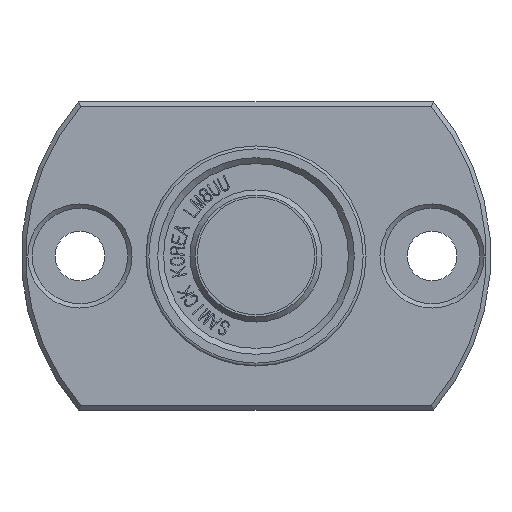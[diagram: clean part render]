
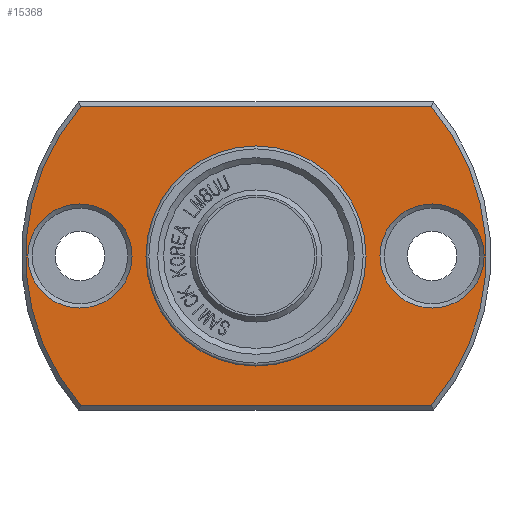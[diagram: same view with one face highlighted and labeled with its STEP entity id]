
A CAD part, front view. The second image highlights one B-rep face of the part: STEP entity #15368.
In plain terms, the highlighted planar face has unit normal (0, -1, 0).
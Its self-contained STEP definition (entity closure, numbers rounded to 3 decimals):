
#2551=FACE_BOUND('',#3665,.T.);
#2552=FACE_BOUND('',#3666,.T.);
#2553=FACE_BOUND('',#3667,.T.);
#2609=PLANE('',#16221);
#2834=FACE_OUTER_BOUND('',#3664,.T.);
#3664=EDGE_LOOP('',(#10700,#10701,#10702,#10703));
#3665=EDGE_LOOP('',(#10704));
#3666=EDGE_LOOP('',(#10705,#10706));
#3667=EDGE_LOOP('',(#10707));
#4552=LINE('',#18275,#5648);
#4553=LINE('',#18279,#5649);
#5648=VECTOR('',#16546,10.);
#5649=VECTOR('',#16549,10.);
#6743=CIRCLE('',#16218,3.55);
#6746=CIRCLE('',#16222,15.7);
#6747=CIRCLE('',#16223,15.7);
#6748=CIRCLE('',#16224,3.55);
#6749=CIRCLE('',#16225,7.5);
#6750=CIRCLE('',#16226,7.5);
#6809=VERTEX_POINT('',#18265);
#6812=VERTEX_POINT('',#18273);
#6813=VERTEX_POINT('',#18274);
#6814=VERTEX_POINT('',#18276);
#6815=VERTEX_POINT('',#18278);
#6816=VERTEX_POINT('',#18281);
#6817=VERTEX_POINT('',#18283);
#6818=VERTEX_POINT('',#18284);
#8365=EDGE_CURVE('',#6809,#6809,#6743,.T.);
#8369=EDGE_CURVE('',#6812,#6813,#4552,.T.);
#8370=EDGE_CURVE('',#6812,#6814,#6746,.T.);
#8371=EDGE_CURVE('',#6815,#6814,#4553,.T.);
#8372=EDGE_CURVE('',#6815,#6813,#6747,.T.);
#8373=EDGE_CURVE('',#6816,#6816,#6748,.T.);
#8374=EDGE_CURVE('',#6817,#6818,#6749,.T.);
#8375=EDGE_CURVE('',#6818,#6817,#6750,.T.);
#10700=ORIENTED_EDGE('',*,*,#8369,.F.);
#10701=ORIENTED_EDGE('',*,*,#8370,.T.);
#10702=ORIENTED_EDGE('',*,*,#8371,.F.);
#10703=ORIENTED_EDGE('',*,*,#8372,.T.);
#10704=ORIENTED_EDGE('',*,*,#8373,.F.);
#10705=ORIENTED_EDGE('',*,*,#8374,.F.);
#10706=ORIENTED_EDGE('',*,*,#8375,.F.);
#10707=ORIENTED_EDGE('',*,*,#8365,.F.);
#15368=ADVANCED_FACE('',(#2834,#2551,#2552,#2553),#2609,.T.);
#16218=AXIS2_PLACEMENT_3D('',#18266,#16537,#16538);
#16221=AXIS2_PLACEMENT_3D('',#18272,#16544,#16545);
#16222=AXIS2_PLACEMENT_3D('',#18277,#16547,#16548);
#16223=AXIS2_PLACEMENT_3D('',#18280,#16550,#16551);
#16224=AXIS2_PLACEMENT_3D('',#18282,#16552,#16553);
#16225=AXIS2_PLACEMENT_3D('',#18285,#16554,#16555);
#16226=AXIS2_PLACEMENT_3D('',#18286,#16556,#16557);
#16537=DIRECTION('center_axis',(0.,-1.,0.));
#16538=DIRECTION('ref_axis',(-1.,0.,0.));
#16544=DIRECTION('center_axis',(0.,-1.,0.));
#16545=DIRECTION('ref_axis',(0.,0.,-1.));
#16546=DIRECTION('',(-1.,0.,0.));
#16547=DIRECTION('center_axis',(0.,-1.,0.));
#16548=DIRECTION('ref_axis',(1.,0.,0.));
#16549=DIRECTION('',(1.,0.,0.));
#16550=DIRECTION('center_axis',(0.,-1.,0.));
#16551=DIRECTION('ref_axis',(1.,0.,0.));
#16552=DIRECTION('center_axis',(0.,-1.,0.));
#16553=DIRECTION('ref_axis',(-1.,0.,0.));
#16554=DIRECTION('center_axis',(0.,-1.,0.));
#16555=DIRECTION('ref_axis',(1.,0.,0.));
#16556=DIRECTION('center_axis',(0.,-1.,0.));
#16557=DIRECTION('ref_axis',(1.,0.,0.));
#18265=CARTESIAN_POINT('',(-8.45,-12.,0.));
#18266=CARTESIAN_POINT('Origin',(-12.,-12.,0.));
#18272=CARTESIAN_POINT('Origin',(11.6,-12.,0.));
#18273=CARTESIAN_POINT('',(11.935,-12.,-10.2));
#18274=CARTESIAN_POINT('',(-11.935,-12.,-10.2));
#18275=CARTESIAN_POINT('',(14.55,-12.,-10.2));
#18276=CARTESIAN_POINT('',(11.935,-12.,10.2));
#18277=CARTESIAN_POINT('Origin',(0.,-12.,0.));
#18278=CARTESIAN_POINT('',(-11.935,-12.,10.2));
#18279=CARTESIAN_POINT('',(-2.95,-12.,10.2));
#18280=CARTESIAN_POINT('Origin',(0.,-12.,0.));
#18281=CARTESIAN_POINT('',(15.55,-12.,0.));
#18282=CARTESIAN_POINT('Origin',(12.,-12.,0.));
#18283=CARTESIAN_POINT('',(7.5,-12.,0.));
#18284=CARTESIAN_POINT('',(-7.5,-12.,0.));
#18285=CARTESIAN_POINT('Origin',(0.,-12.,0.));
#18286=CARTESIAN_POINT('Origin',(0.,-12.,0.));
